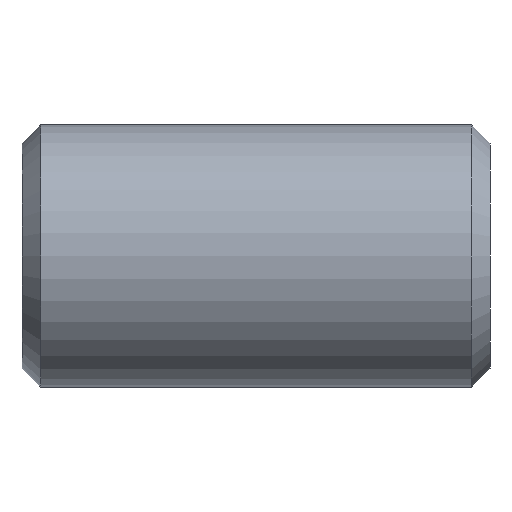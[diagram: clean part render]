
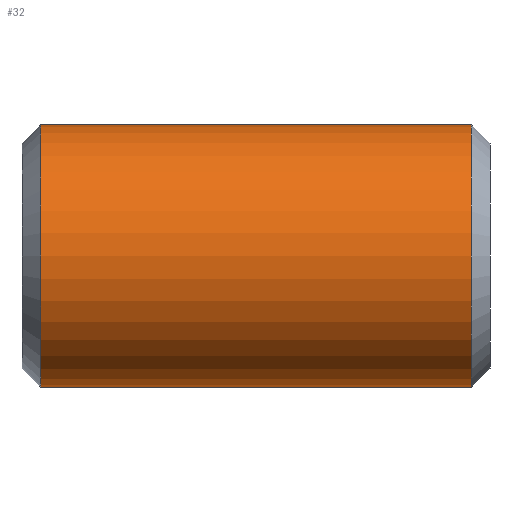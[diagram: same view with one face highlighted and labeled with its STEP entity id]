
A CAD part, left-side view. The second image highlights one B-rep face of the part: STEP entity #32.
In plain terms, the highlighted cylindrical face has radius 7 mm (diameter 14 mm), a full revolution.
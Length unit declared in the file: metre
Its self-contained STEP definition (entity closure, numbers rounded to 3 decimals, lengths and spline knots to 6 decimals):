
#32=ADVANCED_FACE('NONE',(#64,#65),#66,.T.);
#64=FACE_OUTER_BOUND('',#98,.T.);
#65=FACE_OUTER_BOUND('',#99,.T.);
#66=CYLINDRICAL_SURFACE('',#100,0.007);
#98=EDGE_LOOP('',(#126));
#99=EDGE_LOOP('',(#127));
#100=AXIS2_PLACEMENT_3D('',#128,#129,#130);
#126=ORIENTED_EDGE('',*,*,#167,.F.);
#127=ORIENTED_EDGE('',*,*,#168,.F.);
#128=CARTESIAN_POINT('',(0.0,0.0,0.0));
#129=DIRECTION('',(-0.0,1.0,0.0));
#130=DIRECTION('',(1.0,0.0,0.0));
#167=EDGE_CURVE('NONE',#181,#181,#182,.T.);
#168=EDGE_CURVE('NONE',#183,#183,#184,.T.);
#181=VERTEX_POINT('',#201);
#182=CIRCLE('',#202,0.007);
#183=VERTEX_POINT('',#203);
#184=CIRCLE('',#204,0.007);
#201=CARTESIAN_POINT('',(0.007,0.024,0.0));
#202=AXIS2_PLACEMENT_3D('',#220,#221,#222);
#203=CARTESIAN_POINT('',(0.007,0.001,0.0));
#204=AXIS2_PLACEMENT_3D('',#223,#224,#225);
#220=CARTESIAN_POINT('',(0.0,0.024,0.0));
#221=DIRECTION('',(-0.0,1.0,0.0));
#222=DIRECTION('',(1.0,0.0,0.0));
#223=CARTESIAN_POINT('',(0.0,0.001,0.0));
#224=DIRECTION('',(0.0,-1.0,0.0));
#225=DIRECTION('',(1.0,0.0,0.0));
